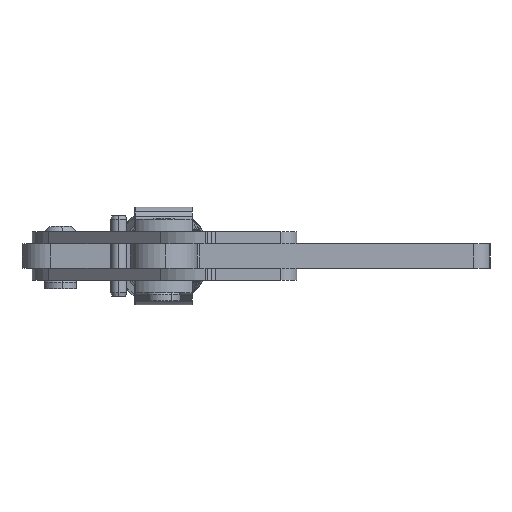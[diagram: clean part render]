
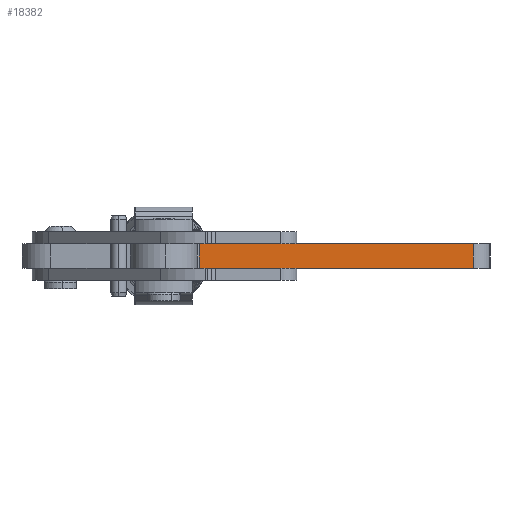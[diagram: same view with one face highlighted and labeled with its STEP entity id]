
A CAD part, left-side view. The second image highlights one B-rep face of the part: STEP entity #18382.
In plain terms, the highlighted planar face has unit normal (-1, 0.004, 0) as drawn and (0, 1, 0) by its records, which use the part's own axes.
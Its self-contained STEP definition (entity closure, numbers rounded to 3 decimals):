
#228 = ORIENTED_EDGE ( 'NONE', *, *, #4599, .T. ) ;
#686 = LINE ( 'NONE', #7859, #17763 ) ;
#777 = LINE ( 'NONE', #13698, #9388 ) ;
#1161 = EDGE_CURVE ( 'NONE', #13502, #3595, #777, .T. ) ;
#2084 = DIRECTION ( 'NONE',  ( 1., 0., 0. ) ) ;
#2584 = CARTESIAN_POINT ( 'NONE',  ( 4500.006, 1897.999, -6. ) ) ;
#3595 = VERTEX_POINT ( 'NONE', #10084 ) ;
#4183 = PLANE ( 'NONE',  #8022 ) ;
#4599 = EDGE_CURVE ( 'NONE', #20193, #21295, #6237, .T. ) ;
#4995 = EDGE_CURVE ( 'NONE', #21295, #3595, #686, .T. ) ;
#5042 = CARTESIAN_POINT ( 'NONE',  ( 4445.706, 1897.999, -6. ) ) ;
#5795 = DIRECTION ( 'NONE',  ( 0., 0., -1. ) ) ;
#6094 = DIRECTION ( 'NONE',  ( 0., 0., 1. ) ) ;
#6237 = LINE ( 'NONE', #2584, #12458 ) ;
#7023 = EDGE_LOOP ( 'NONE', ( #14035, #18172, #228, #12345 ) ) ;
#7859 = CARTESIAN_POINT ( 'NONE',  ( 4378.458, 1897.999, -6. ) ) ;
#7892 = DIRECTION ( 'NONE',  ( -1., 0., 0. ) ) ;
#8022 = AXIS2_PLACEMENT_3D ( 'NONE', #11378, #18580, #2084 ) ;
#8902 = CARTESIAN_POINT ( 'NONE',  ( 4445.706, 1897.999, 0. ) ) ;
#9388 = VECTOR ( 'NONE', #20437, 1000. ) ;
#9523 = VECTOR ( 'NONE', #5795, 1000. ) ;
#10084 = CARTESIAN_POINT ( 'NONE',  ( 4378.458, 1897.999, 0. ) ) ;
#10922 = EDGE_CURVE ( 'NONE', #13502, #20193, #16415, .T. ) ;
#11378 = CARTESIAN_POINT ( 'NONE',  ( 4447.006, 1897.999, -6. ) ) ;
#12345 = ORIENTED_EDGE ( 'NONE', *, *, #4995, .T. ) ;
#12458 = VECTOR ( 'NONE', #7892, 1000. ) ;
#13502 = VERTEX_POINT ( 'NONE', #8902 ) ;
#13698 = CARTESIAN_POINT ( 'NONE',  ( 4447.006, 1897.999, 0. ) ) ;
#14035 = ORIENTED_EDGE ( 'NONE', *, *, #1161, .F. ) ;
#16415 = LINE ( 'NONE', #22167, #9523 ) ;
#17247 = CARTESIAN_POINT ( 'NONE',  ( 4378.458, 1897.999, -6. ) ) ;
#17763 = VECTOR ( 'NONE', #6094, 1000. ) ;
#18172 = ORIENTED_EDGE ( 'NONE', *, *, #10922, .T. ) ;
#18238 = FACE_OUTER_BOUND ( 'NONE', #7023, .T. ) ;
#18382 = ADVANCED_FACE ( 'NONE', ( #18238 ), #4183, .T. ) ;
#18580 = DIRECTION ( 'NONE',  ( 0., 1., 0. ) ) ;
#20193 = VERTEX_POINT ( 'NONE', #5042 ) ;
#20437 = DIRECTION ( 'NONE',  ( -1., 0., 0. ) ) ;
#21295 = VERTEX_POINT ( 'NONE', #17247 ) ;
#22167 = CARTESIAN_POINT ( 'NONE',  ( 4445.706, 1897.999, -6. ) ) ;
